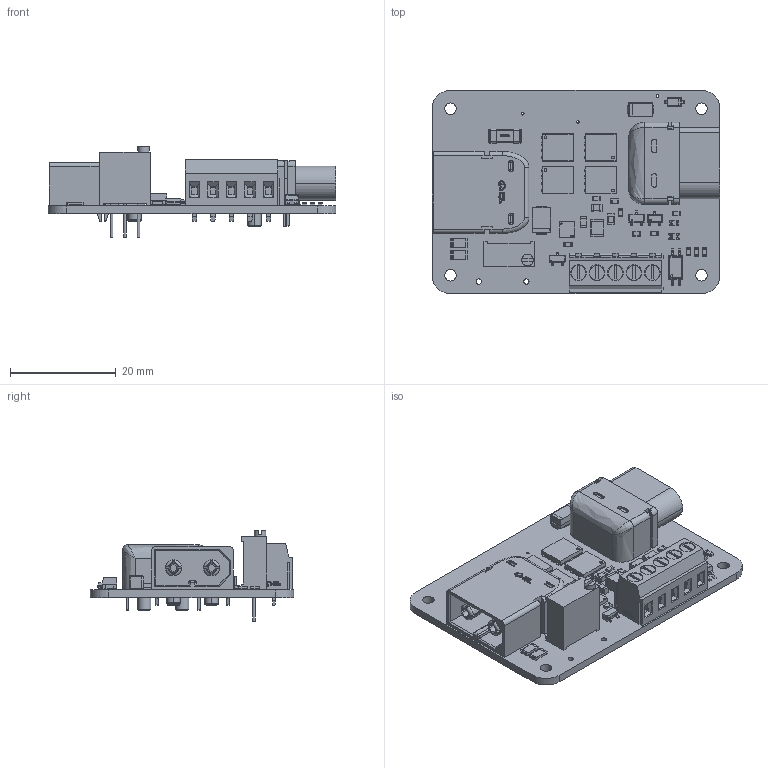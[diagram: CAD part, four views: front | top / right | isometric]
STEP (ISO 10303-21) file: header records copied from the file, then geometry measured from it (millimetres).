
FILE_DESCRIPTION(('KiCad electronic assembly'),'2;1');
FILE_NAME('Electronic Circuit Breaker G2 V6.step','2026-08-24T13:41:16', ('Pcbnew'),('Kicad'),'Open CASCADE STEP processor 7.9', 'KiCad to STEP converter','Unknown');
FILE_SCHEMA(('AUTOMOTIVE_DESIGN { 1 0 10303 214 1 1 1 1 }'));
Length unit declared in the file: millimetre
Products named in the file (21): Electronic Circuit Breaker G2 V6 1; R_0603_1608Metric; Potentiometer_Bourns_3296W_Vertical; SOT-23-3L_L2.9-W1.6-H1.1-LS2.8-P0.95; L_1210_3225Metric; TDSON-8-1; D_SOD-123; FUSE-SMD_L6.1-W2.6-H2.6; C_0805_2012Metric; D_0603_1608Metric; D_0805_2012Metric; WSON-12_L3.0-W3.0-P0.50-TL-EP-2; D_SMA; CONN-TH_5P-P3.50_DORABO_DB125-3.5-5P-GN-S; TH_2P-XT60PW-F; CONN-TH_XT60PW-M; SOT-23; D_SMB; R_1206_3216Metric; SSOP-4_L4.4-W2.7-P1.27-LS7.0-TL; Electronic Circuit Breaker G2 V6_PCB
Assembly tree (36 placements, depth 2):
  Electronic Circuit Breaker G2 V6 1
    R_0603_1608Metric  x10
    Potentiometer_Bourns_3296W_Vertical
    SOT-23-3L_L2.9-W1.6-H1.1-LS2.8-P0.95  x2
    L_1210_3225Metric
    TDSON-8-1  x4
    D_SOD-123
    FUSE-SMD_L6.1-W2.6-H2.6
    C_0805_2012Metric  x3
    D_0603_1608Metric
    D_0805_2012Metric
    WSON-12_L3.0-W3.0-P0.50-TL-EP-2
    D_SMA
    CONN-TH_5P-P3.50_DORABO_DB125-3.5-5P-GN-S
    TH_2P-XT60PW-F
    CONN-TH_XT60PW-M
    SOT-23
    D_SMB
    R_1206_3216Metric  x2
    SSOP-4_L4.4-W2.7-P1.27-LS7.0-TL
    Electronic Circuit Breaker G2 V6_PCB
Bounding box: 54.5 x 38.5 x 17.07 mm (x, y, z)
Volume: 7954.9 mm3; surface area: 9958.3 mm2
Topology: 51 solids, 51 shells, 3948 faces, 10427 edges, 6781 vertices
Faces by surface type: plane 2479, bspline 867, cylinder 524, sphere 42, cone 20, torus 16
Full cylindrical faces by diameter (mm): 0.5 x7, 0.51 x3, 0.8 x3, 1 x2, 1.4 x5, 2.19 x1, 2.2 x4, 2.7 x4
Entity records: 123376 total; most frequent: CARTESIAN_POINT 29228, ORIENTED_EDGE 16382, DIRECTION 12242, EDGE_CURVE 8191, LINE 5822, VECTOR 5822, VERTEX_POINT 5349, FACE_BOUND 3360
